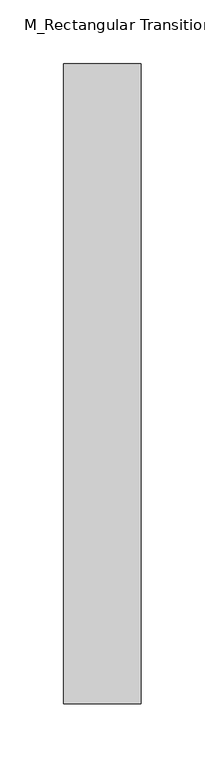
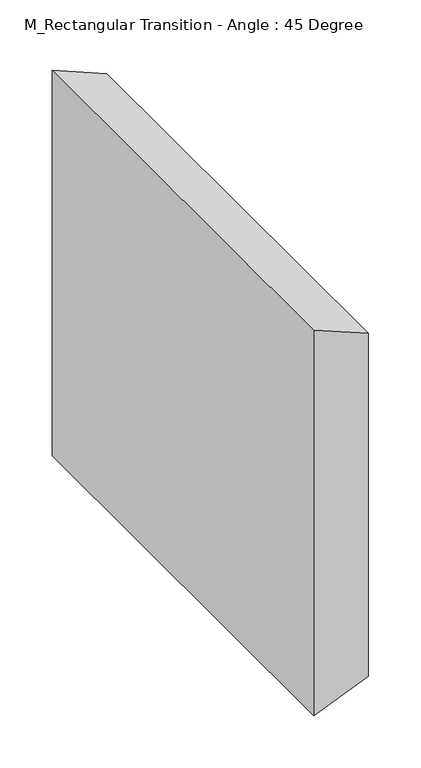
"""IFC4 building model written with IfcOpenShell, lengths in millimetres: duct fitting geometry, M_Rectangular Transition - Angle : 45 Degree."""

from ifc_helpers import new_model, si_unit, frame, origin, place, context, project, spatial, polyline, outline, extrude, source, transform, mapped, element, save


def m_rectangular_transition_angle_45_degree_2558483f(model_context):
    return source(origin(), model_context, "Body", "SweptSolid", [
        extrude(outline(polyline([(-225.0, 0.0), (225.0, 0.0), (200.0, -60.3553391), (-200.0, -60.3553391), (-225.0, 0.0)])), frame((0.0, -250.0, 0.0), z_axis=(-4.436043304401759e-12, 1.0, 0.0), x_axis=(0.0, 0.0, -1.0)), (0.0, 0.0, 1.0), 500.0),
        extrude(outline(polyline([(-225.0, 0.0), (225.0, 0.0), (200.0, -60.3553391), (-200.0, -60.3553391), (-225.0, 0.0)])), frame((0.0, -250.0, 0.0), z_axis=(-1.3629956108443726e-12, 1.0, 0.0), x_axis=(0.0, 0.0, -1.0)), (0.0, 0.0, 1.0), 500.0),
        extrude(outline(polyline([(225.0, 0.0), (-225.0, 0.0), (-200.0, 60.3553391), (200.0, 60.3553391), (225.0, 0.0)])), frame((0.0, -250.0, 0.0), z_axis=(0.0, 1.0, 0.0), x_axis=(0.0, 0.0, 1.0)), (0.0, 0.0, 1.0), 500.0),
    ])


if __name__ == "__main__":
    model = new_model("IFC4")
    model_context = context("Model", 3, world=origin())
    ifc_project = project(units=[si_unit("LENGTHUNIT", "METRE", prefix="MILLI")], contexts=[model_context])
    site = spatial("IfcSite", under=ifc_project)
    building = spatial("IfcBuilding", under=site)
    placement = place(None, origin())
    m_rectangular_transition_angle_45_degree_shape = m_rectangular_transition_angle_45_degree_2558483f(model_context)
    element("IfcDuctFitting", 1, ObjectType="M_Rectangular Transition - Angle : 45 Degree", at=placement, inside=building, context=model_context, shape_type="MappedRepresentation", body=[
        mapped(m_rectangular_transition_angle_45_degree_shape, transform((0.0, 0.0, 0.0), x_axis=(1.0, 0.0, 0.0), y_axis=(0.0, 1.0, 0.0), z_axis=(0.0, 0.0, 1.0))),
    ])
    save(model, "model.ifc")
